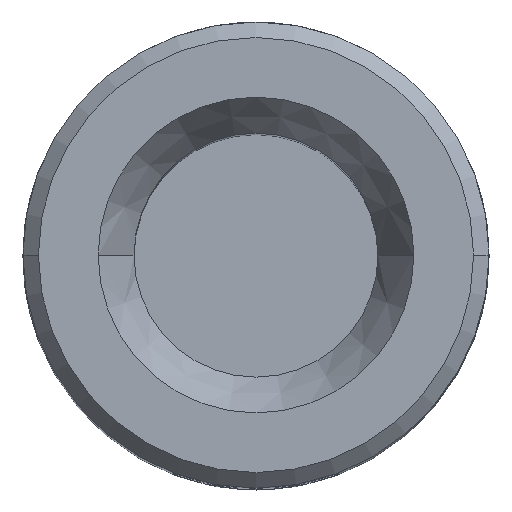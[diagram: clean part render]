
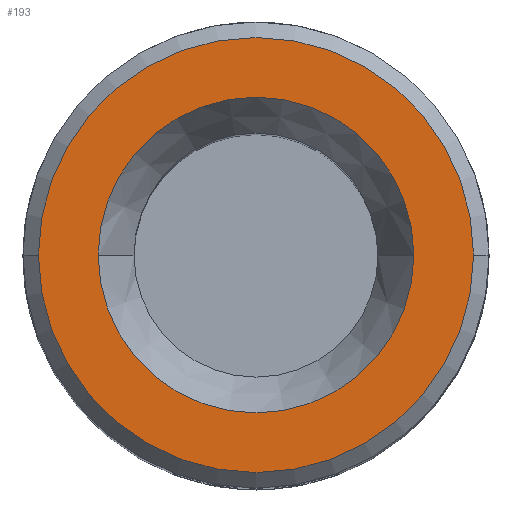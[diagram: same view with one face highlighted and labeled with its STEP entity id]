
A CAD part, top view. The second image highlights one B-rep face of the part: STEP entity #193.
In plain terms, the highlighted planar face has unit normal (0, 0, 1).
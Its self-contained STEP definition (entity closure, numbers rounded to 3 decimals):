
#134=AXIS2_PLACEMENT_3D('Circle Axis2P3D',#132,#133,$) ;
#156=AXIS2_PLACEMENT_3D('Circle Axis2P3D',#154,#155,$) ;
#169=AXIS2_PLACEMENT_3D('Plane Axis2P3D',#166,#167,#168) ;
#177=AXIS2_PLACEMENT_3D('Circle Axis2P3D',#175,#176,$) ;
#186=AXIS2_PLACEMENT_3D('Circle Axis2P3D',#184,#185,$) ;
#113=CARTESIAN_POINT('Vertex',(-7.,0.,32.)) ;
#129=CARTESIAN_POINT('Vertex',(7.,0.,32.)) ;
#132=CARTESIAN_POINT('Axis2P3D Location',(0.,0.,32.)) ;
#154=CARTESIAN_POINT('Axis2P3D Location',(0.,0.,32.)) ;
#166=CARTESIAN_POINT('Axis2P3D Location',(0.,0.,32.)) ;
#175=CARTESIAN_POINT('Axis2P3D Location',(0.,0.,32.)) ;
#179=CARTESIAN_POINT('Vertex',(5.08,0.,32.)) ;
#181=CARTESIAN_POINT('Vertex',(-5.08,0.,32.)) ;
#184=CARTESIAN_POINT('Axis2P3D Location',(0.,0.,32.)) ;
#133=DIRECTION('Axis2P3D Direction',(0.,0.,1.)) ;
#155=DIRECTION('Axis2P3D Direction',(0.,0.,1.)) ;
#167=DIRECTION('Axis2P3D Direction',(0.,0.,1.)) ;
#168=DIRECTION('Axis2P3D XDirection',(1.,0.,0.)) ;
#176=DIRECTION('Axis2P3D Direction',(0.,0.,1.)) ;
#185=DIRECTION('Axis2P3D Direction',(0.,0.,1.)) ;
#172=ORIENTED_EDGE('',*,*,#136,.T.) ;
#173=ORIENTED_EDGE('',*,*,#158,.T.) ;
#190=ORIENTED_EDGE('',*,*,#183,.F.) ;
#191=ORIENTED_EDGE('',*,*,#188,.F.) ;
#192=FACE_BOUND('',#189,.T.) ;
#193=ADVANCED_FACE('\X2\96F64EF651E04F554F53\X0\',(#174,#192),#170,.T.) ;
#135=CIRCLE('generated circle',#134,7.) ;
#157=CIRCLE('generated circle',#156,7.) ;
#178=CIRCLE('generated circle',#177,5.08) ;
#187=CIRCLE('generated circle',#186,5.08) ;
#136=EDGE_CURVE('',#114,#130,#135,.T.) ;
#158=EDGE_CURVE('',#130,#114,#157,.T.) ;
#183=EDGE_CURVE('',#180,#182,#178,.T.) ;
#188=EDGE_CURVE('',#182,#180,#187,.T.) ;
#171=EDGE_LOOP('',(#172,#173)) ;
#189=EDGE_LOOP('',(#190,#191)) ;
#174=FACE_OUTER_BOUND('',#171,.T.) ;
#170=PLANE('',#169) ;
#114=VERTEX_POINT('',#113) ;
#130=VERTEX_POINT('',#129) ;
#180=VERTEX_POINT('',#179) ;
#182=VERTEX_POINT('',#181) ;
